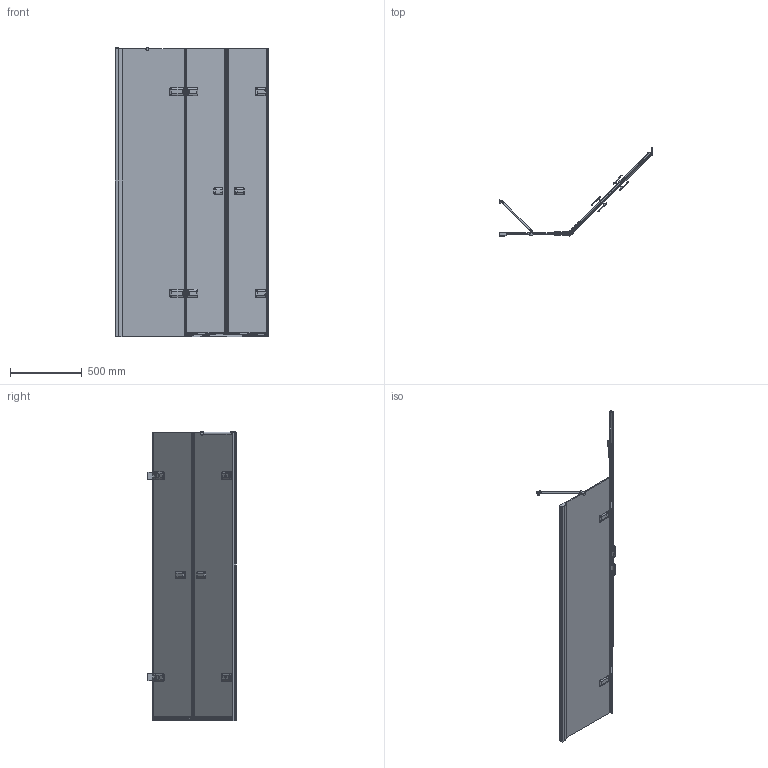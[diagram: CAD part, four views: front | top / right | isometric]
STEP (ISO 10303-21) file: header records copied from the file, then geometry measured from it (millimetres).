
FILE_DESCRIPTION(/* description */ (''),/* implementation_level */ '2;1');
FILE_NAME(/* name */ 'D:\1\ЭГ\TREND DOOR GK-863AGP135TWO-01\TREND DOOR GK-863AGP135TWO-01 левая модель\TREND DOOR GK-863AGP135TWO ЛЕВАЯ-3D.stp',/* time_stamp */ '2023-07-04T08:28:10+03:00',/* author */ ('ChechurovS'),/* organization */ (''),/* preprocessor_version */ 'ST-DEVELOPER v15.2',/* originating_system */ 'Autodesk Inventor 2014',/* authorisation */ '');
FILE_SCHEMA (('AUTOMOTIVE_DESIGN { 1 0 10303 214 3 1 1 }'));
Products named in the file (1): TREND DOOR GK-863AGP135TWO ЛЕВАЯ-
3D
Bounding box: 1067.82 x 613.01 x 2009.49 mm (x, y, z)
Volume: 20003238.9 mm3; surface area: 5943769.2 mm2
Topology: 10 solids, 10 shells, 1836 faces, 5111 edges, 3235 vertices
Faces by surface type: plane 1083, cylinder 498, bspline 188, torus 37, cone 18, sphere 12
Full cylindrical faces by diameter (mm): 6 x2, 9 x8, 12 x2, 13 x2, 15 x1, 20 x2, 26 x1
Entity records: 80239 total; most frequent: CARTESIAN_POINT 31926, ORIENTED_EDGE 9998, DIRECTION 9293, EDGE_CURVE 4999, LINE 3221, VECTOR 3221, VERTEX_POINT 3221, AXIS2_PLACEMENT_3D 3036
